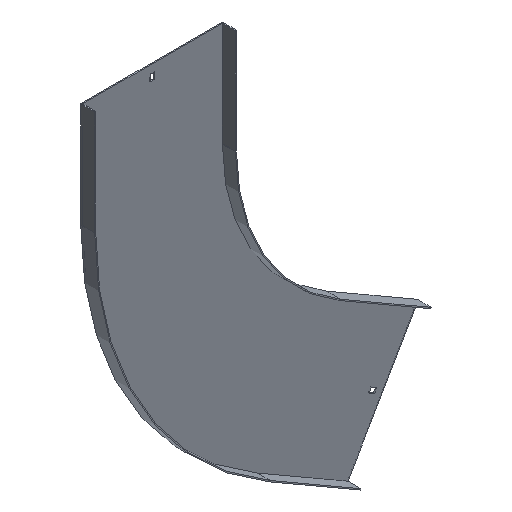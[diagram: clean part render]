
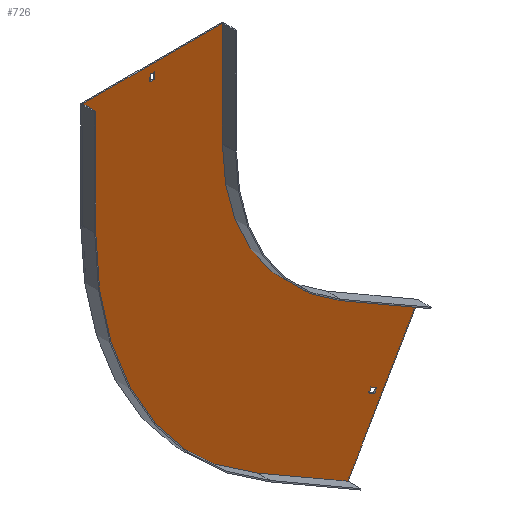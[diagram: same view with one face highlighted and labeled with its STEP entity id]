
A CAD part, isometric view. The second image highlights one B-rep face of the part: STEP entity #726.
In plain terms, the highlighted planar face has unit normal (0, -1, 0).
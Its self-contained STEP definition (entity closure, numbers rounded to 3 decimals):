
#7 = VERTEX_POINT ( 'NONE', #544 ) ;
#9 = AXIS2_PLACEMENT_3D ( 'NONE', #421, #348, #833 ) ;
#19 = ORIENTED_EDGE ( 'NONE', *, *, #640, .T. ) ;
#23 = CARTESIAN_POINT ( 'NONE',  ( -396.75, -1.5, 129. ) ) ;
#35 = ORIENTED_EDGE ( 'NONE', *, *, #425, .F. ) ;
#37 = CIRCLE ( 'NONE', #121, 500. ) ;
#42 = EDGE_CURVE ( 'NONE', #583, #174, #610, .T. ) ;
#62 = VECTOR ( 'NONE', #661, 1000. ) ;
#65 = CARTESIAN_POINT ( 'NONE',  ( -403.25, -1.5, 129. ) ) ;
#70 = EDGE_CURVE ( 'NONE', #155, #83, #728, .T. ) ;
#82 = CARTESIAN_POINT ( 'NONE',  ( -300., -1.5, 150. ) ) ;
#83 = VERTEX_POINT ( 'NONE', #65 ) ;
#92 = ORIENTED_EDGE ( 'NONE', *, *, #42, .F. ) ;
#94 = LINE ( 'NONE', #368, #132 ) ;
#101 = LINE ( 'NONE', #446, #693 ) ;
#106 = ORIENTED_EDGE ( 'NONE', *, *, #389, .T. ) ;
#111 = DIRECTION ( 'NONE',  ( 1., 0., 0. ) ) ;
#121 = AXIS2_PLACEMENT_3D ( 'NONE', #784, #250, #191 ) ;
#123 = CARTESIAN_POINT ( 'NONE',  ( 0., -1.5, 0. ) ) ;
#127 = EDGE_CURVE ( 'NONE', #519, #428, #101, .T. ) ;
#128 = CARTESIAN_POINT ( 'NONE',  ( -89.908, -1.5, -413.725 ) ) ;
#132 = VECTOR ( 'NONE', #500, 1000. ) ;
#141 = CARTESIAN_POINT ( 'NONE',  ( 119.512, -1.5, -69. ) ) ;
#146 = AXIS2_PLACEMENT_3D ( 'NONE', #123, #401, #674 ) ;
#152 = EDGE_CURVE ( 'NONE', #813, #156, #381, .T. ) ;
#155 = VERTEX_POINT ( 'NONE', #23 ) ;
#156 = VERTEX_POINT ( 'NONE', #232 ) ;
#160 = EDGE_CURVE ( 'NONE', #295, #299, #94, .T. ) ;
#162 = CARTESIAN_POINT ( 'NONE',  ( -120.096, -1.5, -508.013 ) ) ;
#165 = VECTOR ( 'NONE', #487, 1000. ) ;
#174 = VERTEX_POINT ( 'NONE', #311 ) ;
#178 = EDGE_CURVE ( 'NONE', #299, #771, #302, .T. ) ;
#184 = CARTESIAN_POINT ( 'NONE',  ( -82.113, -1.5, -418.225 ) ) ;
#189 = DIRECTION ( 'NONE',  ( 0., 0., 1. ) ) ;
#191 = DIRECTION ( 'NONE',  ( 0., 0., -1. ) ) ;
#193 = ORIENTED_EDGE ( 'NONE', *, *, #127, .F. ) ;
#199 = VECTOR ( 'NONE', #393, 1000. ) ;
#208 = EDGE_LOOP ( 'NONE', ( #369, #193, #35, #314, #239, #666, #765, #92 ) ) ;
#222 = LINE ( 'NONE', #162, #165 ) ;
#223 = ORIENTED_EDGE ( 'NONE', *, *, #178, .F. ) ;
#228 = ORIENTED_EDGE ( 'NONE', *, *, #453, .F. ) ;
#232 = CARTESIAN_POINT ( 'NONE',  ( -396.75, -1.5, 138. ) ) ;
#236 = ORIENTED_EDGE ( 'NONE', *, *, #70, .T. ) ;
#239 = ORIENTED_EDGE ( 'NONE', *, *, #766, .F. ) ;
#241 = CARTESIAN_POINT ( 'NONE',  ( -250., -1.5, -433.013 ) ) ;
#248 = VECTOR ( 'NONE', #358, 1000. ) ;
#250 = DIRECTION ( 'NONE',  ( 0., 1., 0. ) ) ;
#253 = CARTESIAN_POINT ( 'NONE',  ( -501.5, -1.5, 150. ) ) ;
#255 = EDGE_LOOP ( 'NONE', ( #496, #19, #236, #106 ) ) ;
#262 = FACE_BOUND ( 'NONE', #717, .T. ) ;
#289 = DIRECTION ( 'NONE',  ( 0.866, 0., -0.5 ) ) ;
#291 = CARTESIAN_POINT ( 'NONE',  ( -198.375, -1.5, -343.596 ) ) ;
#295 = VERTEX_POINT ( 'NONE', #341 ) ;
#299 = VERTEX_POINT ( 'NONE', #128 ) ;
#302 = LINE ( 'NONE', #753, #811 ) ;
#311 = CARTESIAN_POINT ( 'NONE',  ( -300., -1.5, 0. ) ) ;
#314 = ORIENTED_EDGE ( 'NONE', *, *, #534, .F. ) ;
#324 = CARTESIAN_POINT ( 'NONE',  ( -300., -1.5, 150. ) ) ;
#335 = CARTESIAN_POINT ( 'NONE',  ( -19.346, -1.5, -333.509 ) ) ;
#341 = CARTESIAN_POINT ( 'NONE',  ( -86.658, -1.5, -408.096 ) ) ;
#348 = DIRECTION ( 'NONE',  ( 0., -1., 0. ) ) ;
#350 = VECTOR ( 'NONE', #725, 1000. ) ;
#358 = DIRECTION ( 'NONE',  ( 0., 0., -1. ) ) ;
#361 = VERTEX_POINT ( 'NONE', #241 ) ;
#362 = DIRECTION ( 'NONE',  ( 1., 0., 0. ) ) ;
#368 = CARTESIAN_POINT ( 'NONE',  ( 111.717, -1.5, -64.5 ) ) ;
#369 = ORIENTED_EDGE ( 'NONE', *, *, #440, .F. ) ;
#378 = DIRECTION ( 'NONE',  ( 0.866, 0., -0.5 ) ) ;
#379 = LINE ( 'NONE', #524, #199 ) ;
#381 = LINE ( 'NONE', #844, #520 ) ;
#383 = LINE ( 'NONE', #253, #405 ) ;
#389 = EDGE_CURVE ( 'NONE', #83, #813, #778, .T. ) ;
#393 = DIRECTION ( 'NONE',  ( 0., 0., -1. ) ) ;
#401 = DIRECTION ( 'NONE',  ( 0., -1., 0. ) ) ;
#404 = CIRCLE ( 'NONE', #9, 300. ) ;
#405 = VECTOR ( 'NONE', #111, 1000. ) ;
#407 = CARTESIAN_POINT ( 'NONE',  ( 0., -1.5, 129. ) ) ;
#412 = CARTESIAN_POINT ( 'NONE',  ( -150., -1.5, -259.808 ) ) ;
#421 = CARTESIAN_POINT ( 'NONE',  ( 0., -1.5, 0. ) ) ;
#425 = EDGE_CURVE ( 'NONE', #361, #519, #37, .T. ) ;
#428 = VERTEX_POINT ( 'NONE', #462 ) ;
#433 = DIRECTION ( 'NONE',  ( 0.5, 0., 0.866 ) ) ;
#440 = EDGE_CURVE ( 'NONE', #428, #583, #383, .T. ) ;
#446 = CARTESIAN_POINT ( 'NONE',  ( -500., -1.5, 0. ) ) ;
#452 = CARTESIAN_POINT ( 'NONE',  ( -403.25, -1.5, 0. ) ) ;
#453 = EDGE_CURVE ( 'NONE', #560, #295, #494, .T. ) ;
#462 = CARTESIAN_POINT ( 'NONE',  ( -500., -1.5, 150. ) ) ;
#466 = EDGE_CURVE ( 'NONE', #771, #560, #676, .T. ) ;
#477 = EDGE_CURVE ( 'NONE', #707, #489, #746, .T. ) ;
#479 = VECTOR ( 'NONE', #289, 1000. ) ;
#487 = DIRECTION ( 'NONE',  ( -0.866, 0., 0.5 ) ) ;
#489 = VERTEX_POINT ( 'NONE', #559 ) ;
#494 = LINE ( 'NONE', #291, #517 ) ;
#496 = ORIENTED_EDGE ( 'NONE', *, *, #152, .T. ) ;
#499 = DIRECTION ( 'NONE',  ( -0.866, 0., 0.5 ) ) ;
#500 = DIRECTION ( 'NONE',  ( -0.5, 0., -0.866 ) ) ;
#508 = EDGE_CURVE ( 'NONE', #174, #707, #404, .T. ) ;
#517 = VECTOR ( 'NONE', #499, 1000. ) ;
#519 = VERTEX_POINT ( 'NONE', #685 ) ;
#520 = VECTOR ( 'NONE', #362, 1000. ) ;
#524 = CARTESIAN_POINT ( 'NONE',  ( -396.75, -1.5, 0. ) ) ;
#525 = CARTESIAN_POINT ( 'NONE',  ( -403.25, -1.5, 138. ) ) ;
#534 = EDGE_CURVE ( 'NONE', #7, #361, #222, .T. ) ;
#544 = CARTESIAN_POINT ( 'NONE',  ( -120.096, -1.5, -508.013 ) ) ;
#559 = CARTESIAN_POINT ( 'NONE',  ( -20.096, -1.5, -334.808 ) ) ;
#560 = VERTEX_POINT ( 'NONE', #614 ) ;
#572 = CARTESIAN_POINT ( 'NONE',  ( -150., -1.5, -259.808 ) ) ;
#583 = VERTEX_POINT ( 'NONE', #324 ) ;
#610 = LINE ( 'NONE', #82, #248 ) ;
#614 = CARTESIAN_POINT ( 'NONE',  ( -78.863, -1.5, -412.596 ) ) ;
#626 = ORIENTED_EDGE ( 'NONE', *, *, #466, .F. ) ;
#640 = EDGE_CURVE ( 'NONE', #156, #155, #379, .T. ) ;
#644 = FACE_OUTER_BOUND ( 'NONE', #208, .T. ) ;
#652 = FACE_BOUND ( 'NONE', #255, .T. ) ;
#661 = DIRECTION ( 'NONE',  ( -1., 0., 0. ) ) ;
#666 = ORIENTED_EDGE ( 'NONE', *, *, #477, .F. ) ;
#674 = DIRECTION ( 'NONE',  ( 0., 0., -1. ) ) ;
#675 = VECTOR ( 'NONE', #189, 1000. ) ;
#676 = LINE ( 'NONE', #141, #825 ) ;
#685 = CARTESIAN_POINT ( 'NONE',  ( -500., -1.5, 0. ) ) ;
#686 = DIRECTION ( 'NONE',  ( 0., 0., 1. ) ) ;
#693 = VECTOR ( 'NONE', #686, 1000. ) ;
#707 = VERTEX_POINT ( 'NONE', #572 ) ;
#717 = EDGE_LOOP ( 'NONE', ( #228, #626, #223, #859 ) ) ;
#725 = DIRECTION ( 'NONE',  ( -0.5, 0., -0.866 ) ) ;
#726 = ADVANCED_FACE ( 'NONE', ( #262, #644, #652 ), #792, .T. ) ;
#728 = LINE ( 'NONE', #407, #62 ) ;
#746 = LINE ( 'NONE', #412, #479 ) ;
#753 = CARTESIAN_POINT ( 'NONE',  ( -201.625, -1.5, -349.225 ) ) ;
#765 = ORIENTED_EDGE ( 'NONE', *, *, #508, .F. ) ;
#766 = EDGE_CURVE ( 'NONE', #489, #7, #815, .T. ) ;
#771 = VERTEX_POINT ( 'NONE', #184 ) ;
#778 = LINE ( 'NONE', #452, #675 ) ;
#784 = CARTESIAN_POINT ( 'NONE',  ( 0., -1.5, 0. ) ) ;
#792 = PLANE ( 'NONE',  #146 ) ;
#811 = VECTOR ( 'NONE', #378, 1000. ) ;
#813 = VERTEX_POINT ( 'NONE', #525 ) ;
#815 = LINE ( 'NONE', #335, #350 ) ;
#825 = VECTOR ( 'NONE', #433, 1000. ) ;
#833 = DIRECTION ( 'NONE',  ( 0., 0., -1. ) ) ;
#844 = CARTESIAN_POINT ( 'NONE',  ( 0., -1.5, 138. ) ) ;
#859 = ORIENTED_EDGE ( 'NONE', *, *, #160, .F. ) ;
